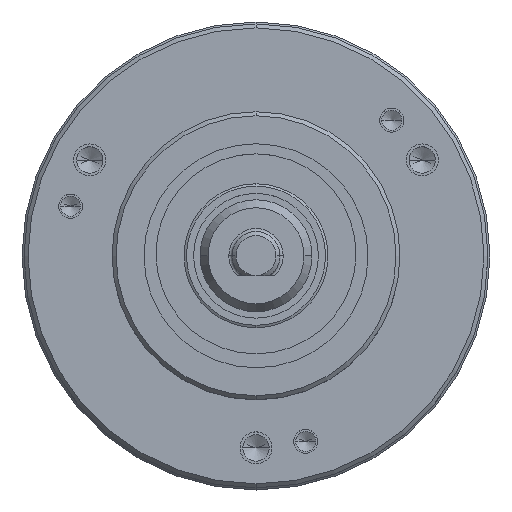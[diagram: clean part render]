
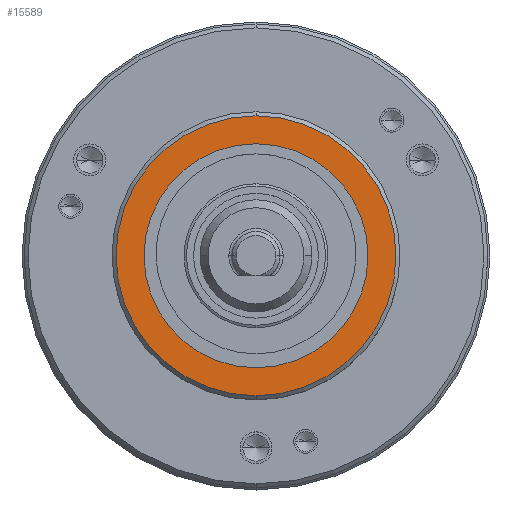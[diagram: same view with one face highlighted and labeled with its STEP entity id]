
A CAD part, top view. The second image highlights one B-rep face of the part: STEP entity #15589.
In plain terms, the highlighted planar face has unit normal (0, 0, 1).
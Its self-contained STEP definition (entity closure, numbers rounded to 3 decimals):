
#748 = FACE_OUTER_BOUND ( 'NONE', #15588, .T. ) ;
#791 = FACE_BOUND ( 'NONE', #15585, .T. ) ;
#834 = CARTESIAN_POINT ( 'NONE',  ( 0., 0., 0. ) ) ;
#835 = AXIS2_PLACEMENT_3D ( 'NONE', #834, #888, #887 ) ;
#836 = PLANE ( 'NONE',  #835 ) ;
#887 = DIRECTION ( 'NONE',  ( 0., -1., 0. ) ) ;
#888 = DIRECTION ( 'NONE',  ( 0., 0., 1. ) ) ;
#1607 = EDGE_CURVE ( 'NONE', #7193, #7196, #5565, .T. ) ;
#5561 = DIRECTION ( 'NONE',  ( -1., 0., 0. ) ) ;
#5562 = DIRECTION ( 'NONE',  ( 0., 0., 1. ) ) ;
#5563 = CARTESIAN_POINT ( 'NONE',  ( 0., 0., 0. ) ) ;
#5564 = AXIS2_PLACEMENT_3D ( 'NONE', #5563, #5562, #5561 ) ;
#5565 = CIRCLE ( 'NONE', #5564, 14. ) ;
#6786 = VERTEX_POINT ( 'NONE', #17268 ) ;
#6794 = EDGE_CURVE ( 'NONE', #6795, #6786, #17313, .T. ) ;
#6795 = VERTEX_POINT ( 'NONE', #17308 ) ;
#6991 = EDGE_CURVE ( 'NONE', #6786, #6795, #17663, .T. ) ;
#7193 = VERTEX_POINT ( 'NONE', #18011 ) ;
#7195 = EDGE_CURVE ( 'NONE', #7196, #7193, #18010, .T. ) ;
#7196 = VERTEX_POINT ( 'NONE', #18005 ) ;
#14511 = ORIENTED_EDGE ( 'NONE', *, *, #7195, .F. ) ;
#14551 = ORIENTED_EDGE ( 'NONE', *, *, #1607, .F. ) ;
#15585 = EDGE_LOOP ( 'NONE', ( #14551, #14511 ) ) ;
#15586 = ORIENTED_EDGE ( 'NONE', *, *, #6794, .T. ) ;
#15587 = ORIENTED_EDGE ( 'NONE', *, *, #6991, .T. ) ;
#15588 = EDGE_LOOP ( 'NONE', ( #15587, #15586 ) ) ;
#15589 = ADVANCED_FACE ( 'NONE', ( #748, #791 ), #836, .T. ) ;
#17268 = CARTESIAN_POINT ( 'NONE',  ( 0., 17.5, 0. ) ) ;
#17308 = CARTESIAN_POINT ( 'NONE',  ( 0., -17.5, 0. ) ) ;
#17309 = DIRECTION ( 'NONE',  ( 0., -1., 0. ) ) ;
#17310 = DIRECTION ( 'NONE',  ( 0., 0., 1. ) ) ;
#17311 = CARTESIAN_POINT ( 'NONE',  ( 0., 0., 0. ) ) ;
#17312 = AXIS2_PLACEMENT_3D ( 'NONE', #17311, #17310, #17309 ) ;
#17313 = CIRCLE ( 'NONE', #17312, 17.5 ) ;
#17656 = DIRECTION ( 'NONE',  ( 0., -1., 0. ) ) ;
#17657 = DIRECTION ( 'NONE',  ( 0., 0., 1. ) ) ;
#17658 = CARTESIAN_POINT ( 'NONE',  ( 0., 0., 0. ) ) ;
#17659 = AXIS2_PLACEMENT_3D ( 'NONE', #17658, #17657, #17656 ) ;
#17663 = CIRCLE ( 'NONE', #17659, 17.5 ) ;
#18005 = CARTESIAN_POINT ( 'NONE',  ( 14., 0., 0. ) ) ;
#18006 = DIRECTION ( 'NONE',  ( -1., 0., 0. ) ) ;
#18007 = DIRECTION ( 'NONE',  ( 0., 0., 1. ) ) ;
#18008 = CARTESIAN_POINT ( 'NONE',  ( 0., 0., 0. ) ) ;
#18009 = AXIS2_PLACEMENT_3D ( 'NONE', #18008, #18007, #18006 ) ;
#18010 = CIRCLE ( 'NONE', #18009, 14. ) ;
#18011 = CARTESIAN_POINT ( 'NONE',  ( -14., 0., 0. ) ) ;
